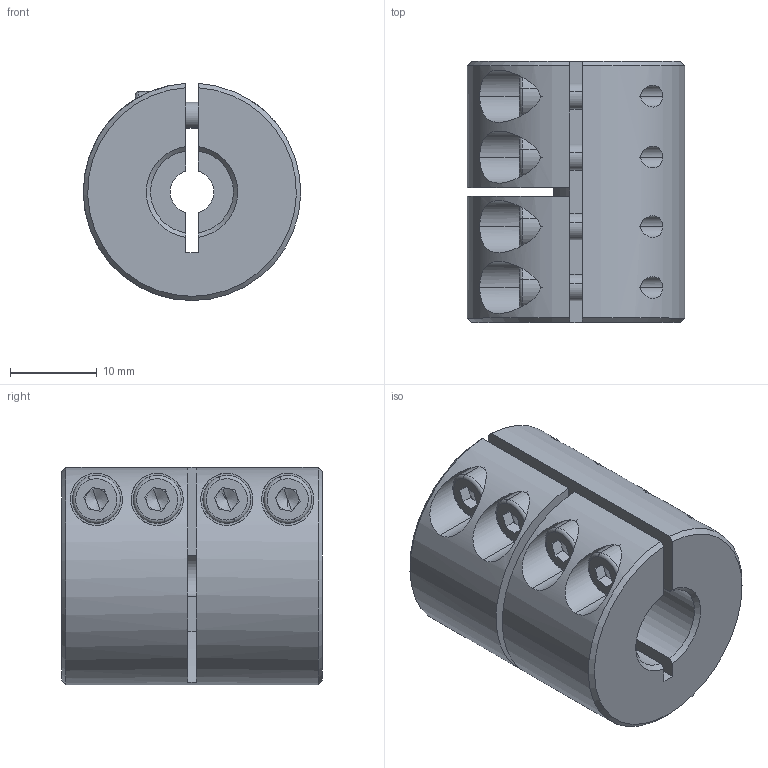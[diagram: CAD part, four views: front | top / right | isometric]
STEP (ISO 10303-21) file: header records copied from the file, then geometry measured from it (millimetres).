
FILE_DESCRIPTION (( 'STEP AP214' ), '1' );
FILE_NAME ('LL-B-D25L30-5-9.525½¨Ä£.STEP', '2022-07-21T03:06:57', ( '' ), ( '' ), 'SwSTEP 2.0', 'SolidWorks 2022', '' );
FILE_SCHEMA (( 'AUTOMOTIVE_DESIGN' ));
Length unit declared in the file: millimetre
Products named in the file (1): LL-B-D25L30-5-9.525膘耀
Bounding box: 24.99 x 30 x 24.98 mm (x, y, z)
Volume: 12205.7 mm3; surface area: 5919.5 mm2
Topology: 1 solids, 1 shells, 164 faces, 418 edges, 264 vertices
Faces by surface type: plane 83, cylinder 58, cone 15, torus 8
Entity records: 5402 total; most frequent: CARTESIAN_POINT 1363, DIRECTION 862, ORIENTED_EDGE 820, EDGE_CURVE 410, AXIS2_PLACEMENT_3D 331, VERTEX_POINT 264, LINE 200, VECTOR 200
